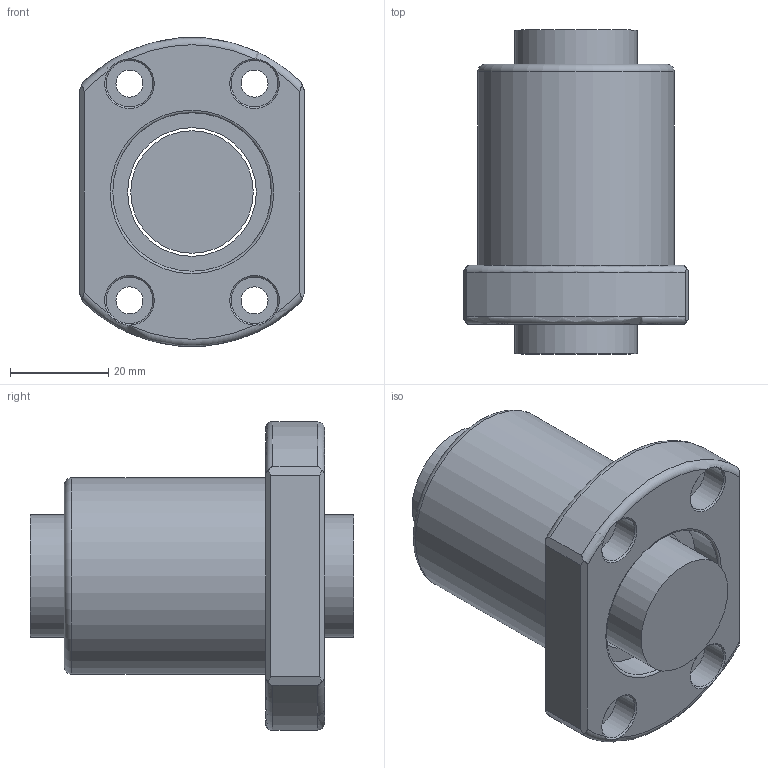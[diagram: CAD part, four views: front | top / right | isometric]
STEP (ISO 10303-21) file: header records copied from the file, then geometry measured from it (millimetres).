
FILE_DESCRIPTION(/* description */ (''),/* implementation_level */ '2;1');
FILE_NAME(/* name */ '2505T4D.prt.step',/* time_stamp */ '2008-12-05T09:33:42+08:00',/* author */ (''),/* organization */ (''),/* preprocessor_version */ 'ST-DEVELOPER v11',/* originating_system */ 'SIEMENS UGS NX 6.0',/* authorisation */ '');
FILE_SCHEMA (('AUTOMOTIVE_DESIGN { 1 0 10303 214 1 1 1 1 }'));
Length unit declared in the file: millimetre
Products named in the file (1): 2505T4D
Bounding box: 46 x 66 x 62.94 mm (x, y, z)
Volume: 80260.4 mm3; surface area: 22859.2 mm2
Topology: 2 solids, 2 shells, 51 faces, 129 edges, 85 vertices
Faces by surface type: plane 21, cylinder 15, cone 8, torus 7
Full cylindrical faces by diameter (mm): 5.5 x4, 9.5 x4, 24.95 x1, 26.2 x1, 32.3 x2, 40 x1
Entity records: 1566 total; most frequent: CARTESIAN_POINT 454, DIRECTION 226, ORIENTED_EDGE 186, AXIS2_PLACEMENT_3D 101, EDGE_CURVE 93, EDGE_LOOP 88, VERTEX_POINT 73, FACE_BOUND 70
